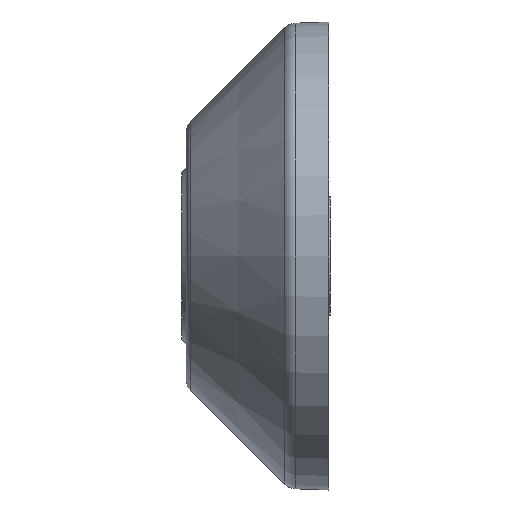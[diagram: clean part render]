
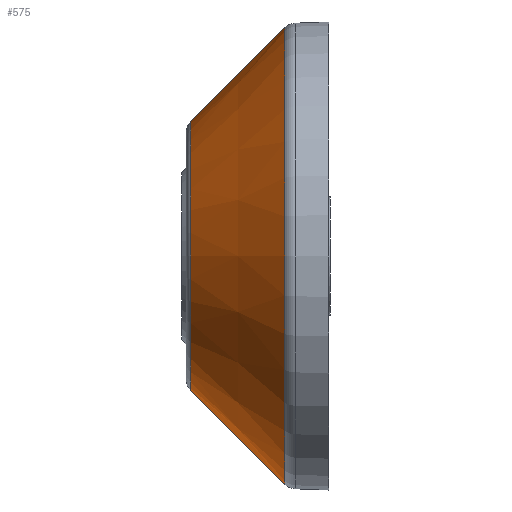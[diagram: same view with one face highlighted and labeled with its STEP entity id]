
A CAD part, left-side view. The second image highlights one B-rep face of the part: STEP entity #575.
In plain terms, the highlighted conical face has half-angle 45 degrees and reference radius 16.325 mm.
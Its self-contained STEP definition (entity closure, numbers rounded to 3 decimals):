
#575=ADVANCED_FACE('NONE',(#1449),#1450,.T.);
#1449=FACE_OUTER_BOUND('',#3392,.T.);
#1450=CONICAL_SURFACE('',#3393,16.325,0.785);
#3392=EDGE_LOOP('',(#7871,#7872,#7873,#7874));
#3393=AXIS2_PLACEMENT_3D('',#7875,#7876,#7877);
#7871=ORIENTED_EDGE('',*,*,#10858,.F.);
#7872=ORIENTED_EDGE('',*,*,#10859,.T.);
#7873=ORIENTED_EDGE('',*,*,#10860,.T.);
#7874=ORIENTED_EDGE('',*,*,#10706,.T.);
#7875=CARTESIAN_POINT('',(0.0,18.0,0.0));
#7876=DIRECTION('',(-0.0,-1.0,-0.0));
#7877=DIRECTION('',(0.0,0.0,-1.0));
#10706=EDGE_CURVE('NONE',#12353,#12357,#12359,.T.);
#10858=EDGE_CURVE('NONE',#12597,#12357,#12598,.T.);
#10859=EDGE_CURVE('NONE',#12597,#12599,#12600,.T.);
#10860=EDGE_CURVE('NONE',#12599,#12353,#12601,.T.);
#12353=VERTEX_POINT('NONE',#15170);
#12357=VERTEX_POINT('NONE',#15174);
#12359=CIRCLE('',#15176,28.768);
#12597=VERTEX_POINT('NONE',#15796);
#12598=LINE('',#15797,#15798);
#12599=VERTEX_POINT('NONE',#15799);
#12600=CIRCLE('',#15800,16.911);
#12601=LINE('',#15801,#15802);
#15170=CARTESIAN_POINT('',(0.0,5.557,-28.768));
#15174=CARTESIAN_POINT('',(0.,5.557,28.768));
#15176=AXIS2_PLACEMENT_3D('',#19413,#19414,#19415);
#15796=CARTESIAN_POINT('',(0.,17.414,16.911));
#15797=CARTESIAN_POINT('',(0.,18.0,16.325));
#15798=VECTOR('',#19537,1000.0);
#15799=CARTESIAN_POINT('',(0.0,17.414,-16.911));
#15800=AXIS2_PLACEMENT_3D('',#19538,#19539,#19540);
#15801=CARTESIAN_POINT('',(0.0,18.0,-16.325));
#15802=VECTOR('',#19541,1000.0);
#19413=CARTESIAN_POINT('',(0.0,5.557,0.0));
#19414=DIRECTION('',(0.0,1.0,0.0));
#19415=DIRECTION('',(0.0,0.0,1.0));
#19537=DIRECTION('',(0.,-0.707,0.707));
#19538=CARTESIAN_POINT('',(0.0,17.414,0.0));
#19539=DIRECTION('',(0.0,-1.0,0.0));
#19540=DIRECTION('',(0.0,0.0,1.0));
#19541=DIRECTION('',(0.0,-0.707,-0.707));
